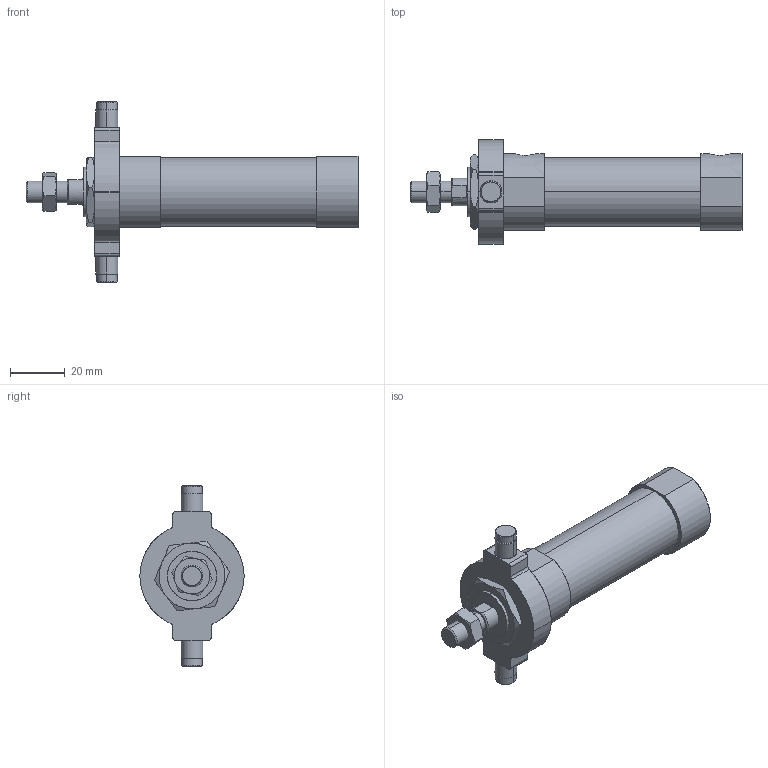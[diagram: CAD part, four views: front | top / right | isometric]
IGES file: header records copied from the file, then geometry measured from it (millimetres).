
Start section: SolidWorks IGES file using analytic representation for surfaces
Global section: file name: C:\Users\Toshiba\Desktop\JGND2-20-25-T.IGS; native system: SolidWorks 2014; preprocessor: SolidWorks 2014; author: Toshiba; date: 160804.102211; units: millimetre
Bounding box: 121 x 38 x 66 mm (x, y, z)
Surface area: 16237.3 mm2 (no closed solid volume)
Topology: 0 solids, 0 shells, 123 faces, 1972 edges, 1972 vertices
Faces by surface type: bspline 68, revolution 55
